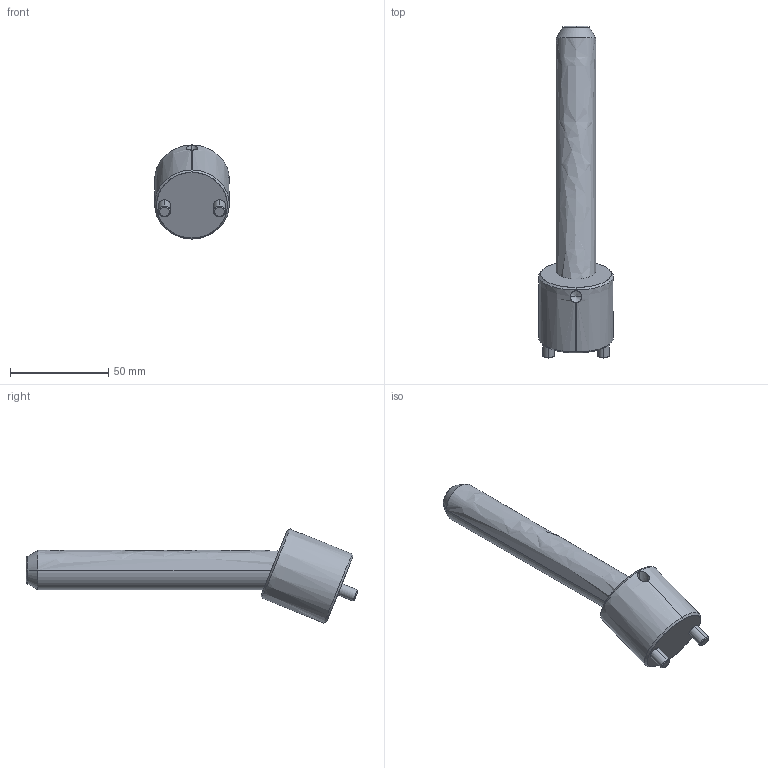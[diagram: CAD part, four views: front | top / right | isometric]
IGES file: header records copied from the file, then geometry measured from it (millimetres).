
Start section: SolidWorks IGES file using analytic representation for surfaces
Global section: file name: D:\Current\W1\Data\CI2220125\CI2220125.IGS; native system: SolidWorks 2017; preprocessor: SolidWorks 2017; author: Ravi Kalvai; date: 231207.180813; units: millimetre
Bounding box: 38 x 169.16 x 47.97 mm (x, y, z)
Surface area: 18974.8 mm2 (no closed solid volume)
Topology: 0 solids, 0 shells, 37 faces, 736 edges, 734 vertices
Faces by surface type: revolution 28, bspline 9
